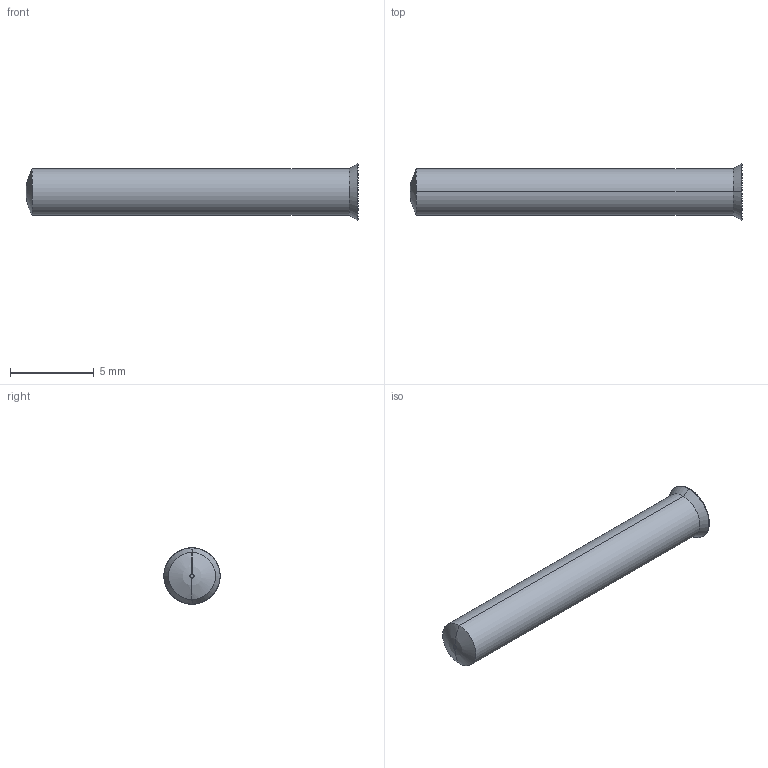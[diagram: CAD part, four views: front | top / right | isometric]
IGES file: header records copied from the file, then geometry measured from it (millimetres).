
Start section: SolidWorks IGES file using analytic representation for surfaces
Global section: file name: \\PSSILO\catalogs\CONTENTCENTRAL\Sear Pin\Cache\8B82B9FF-DDE0-4D0A-AF8D-ED19BB27C4FA.IGS; native system: SolidWorks 2009; preprocessor: SolidWorks 2009; author: partstream; date: 090731.224920; units: inch
Bounding box: 19.81 x 3.37 x 3.37 mm (x, y, z)
Surface area: 187.2 mm2 (no closed solid volume)
Topology: 0 solids, 0 shells, 12 faces, 88 edges, 88 vertices
Faces by surface type: revolution 8, bspline 4
